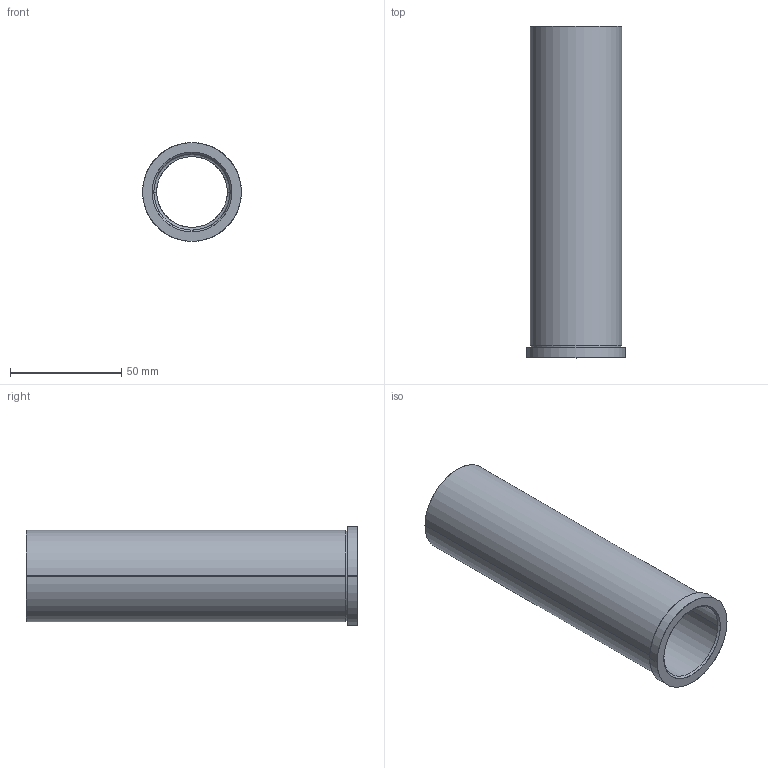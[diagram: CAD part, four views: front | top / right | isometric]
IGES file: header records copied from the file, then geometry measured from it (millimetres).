
Start section: SolidWorks IGES file using analytic representation for surfaces
Global section: file name: C:\Users\Ryan\Documents\PCS\Shoulder Bushings\BU-409.igs; native system: SolidWorks 2009; preprocessor: SolidWorks 2009; author: Ryan; date: 140226.220626; units: inch
Bounding box: 44.45 x 149.22 x 44.45 mm (x, y, z)
Surface area: 36451.3 mm2 (no closed solid volume)
Topology: 0 solids, 0 shells, 20 faces, 576 edges, 576 vertices
Faces by surface type: revolution 12, bspline 8
